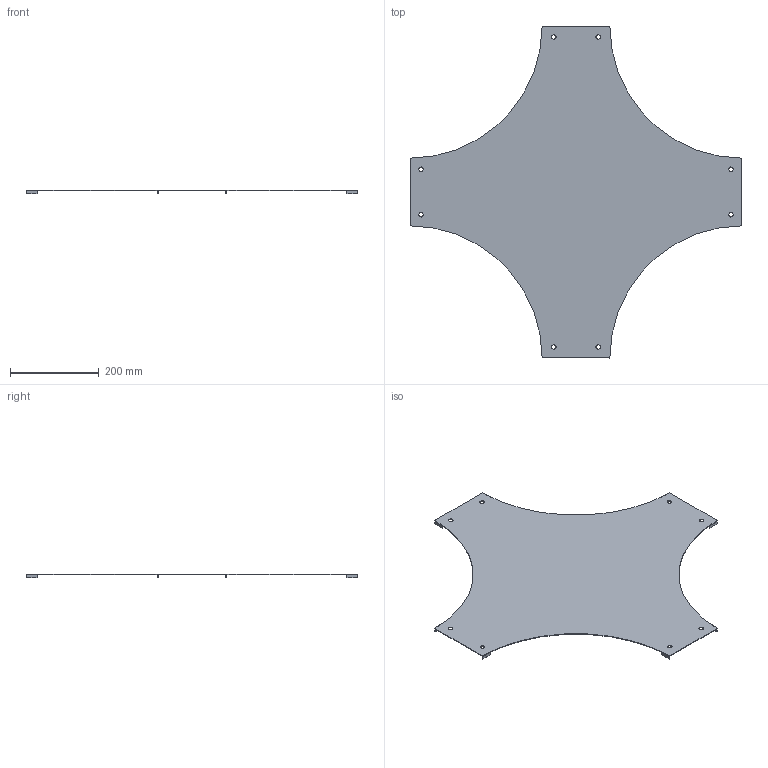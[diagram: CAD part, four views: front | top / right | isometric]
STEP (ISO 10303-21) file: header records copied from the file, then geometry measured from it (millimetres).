
FILE_DESCRIPTION(/* description */ ('','CAx-IF Rec.Pracs.---Representation and Presentation of Product Manufacturing Information (PMI)---4.0---2014-10-13'),/* implementation_level */ '2;1');
FILE_NAME(/* name */ 'Eurostrut_ECOC100-300_Cover Crossover for Cable Ladder ECL.step',/* time_stamp */ '2026-09-10T10:48:18+02:00',/* author */ (''),/* organization */ (''),/* preprocessor_version */ 'ST-DEVELOPER v20.1',/* originating_system */ 'Autodesk Revit 2027 27.2.0.39',/* authorisation */ '');
FILE_SCHEMA (('AP242_MANAGED_MODEL_BASED_3D_ENGINEERING_MIM_LF { 1 0 10303 442 2 1 4 }'));
Length unit declared in the file: millimetre
Products named in the file (6): TopLevelAssembly; Joined Solid Geometry; Joined Solid Geometry_1; Joined Solid Geometry_2; Joined Solid Geometry_3; Joined Solid Geometry_4
Assembly tree (5 placements, depth 2):
  TopLevelAssembly
    Joined Solid Geometry
    Joined Solid Geometry_1
    Joined Solid Geometry_2
    Joined Solid Geometry_3
    Joined Solid Geometry_4
Bounding box: 750 x 750 x 9 mm (x, y, z)
Volume: 425175.7 mm3; surface area: 571790.2 mm2
Topology: 9 solids, 9 shells, 74 faces, 168 edges, 112 vertices
Faces by surface type: plane 38, cylinder 36
Entity records: 2242 total; most frequent: DIRECTION 410, CARTESIAN_POINT 365, ORIENTED_EDGE 336, EDGE_CURVE 168, AXIS2_PLACEMENT_3D 157, VERTEX_POINT 112, LINE 96, VECTOR 96
